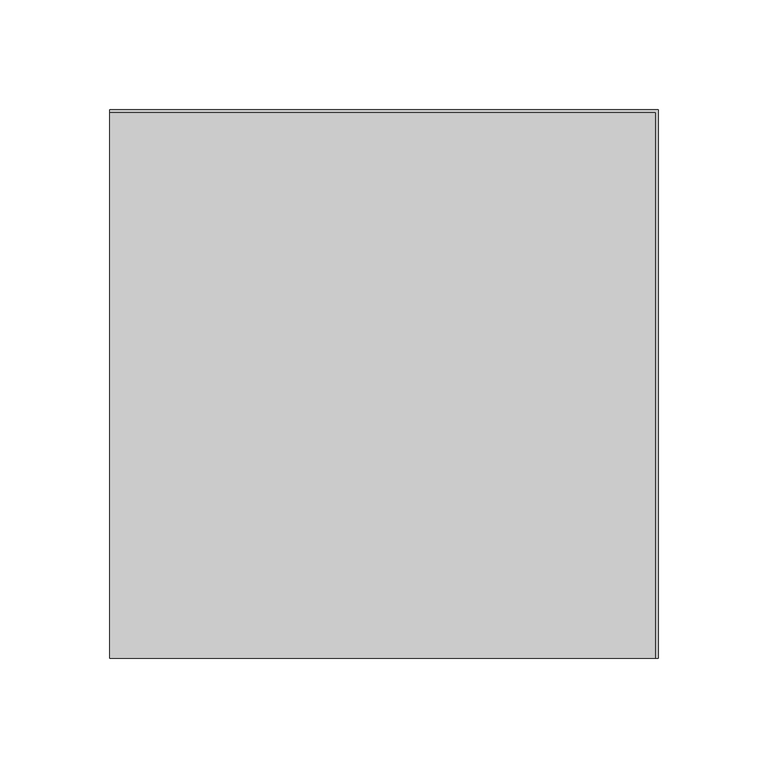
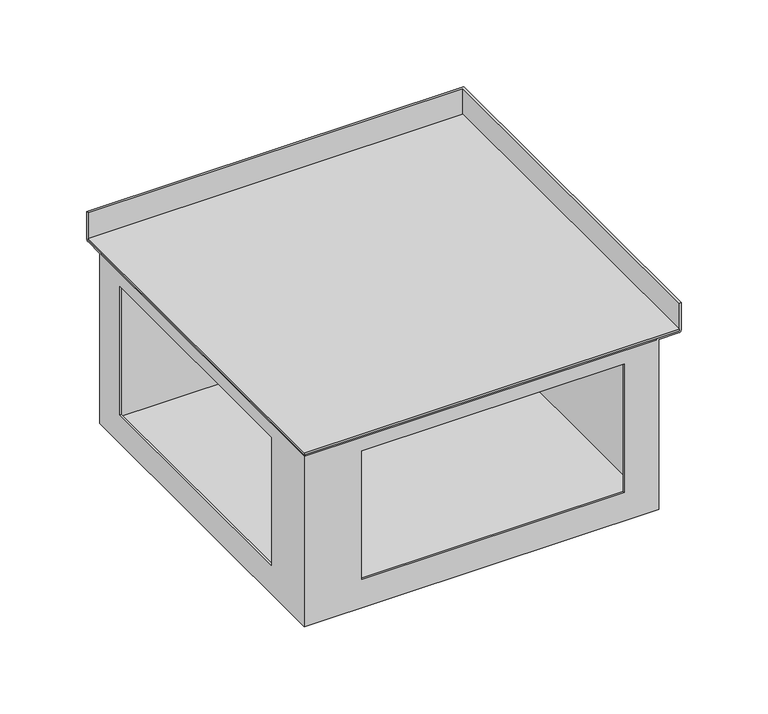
"""IFC4 building model written with IfcOpenShell, lengths in millimetres: proxy geometry, TECHNO_Угловой элемент_KVU : 250_140_90°."""

from ifc_helpers import new_model, si_unit, frame, origin, place, context, project, spatial, polyline, circle_curve, ellipse_curve, outline, extrude, source, transform, mapped, element, save
from ifc_brep_helpers import plane_surface, cylinder_surface, advanced_brep


def mechanical_equipment_c13f3576(model_context):
    return source(origin(), model_context, "Body", "SolidModel", [
        extrude(outline(polyline([(0.0, 123.8), (248.8, 123.8), (248.8, -125.0), (0.0, -125.0), (0.0, 123.8)])), frame((0.0, 0.0, -19.3), z_axis=(0.0, 0.0, 1.0), x_axis=(1.0, 0.0, 0.0)), (0.0, 0.0, 1.0), 1.2),
        advanced_brep(
        [(1.2, 109.0, -138.8), (1.2, -123.8, -138.8), (234.0, -123.8, -138.8), (234.0, 109.0, -138.8), (0.0, 110.2, -140.0), (235.2, 110.2, -140.0), (235.2, -125.0, -140.0), (0.0, -125.0, -140.0), (0.0, 110.2, -20.5), (0.0, -125.0, -20.5), (0.0, 109.0, -20.5), (0.0, 110.2, -19.3), (0.0, 123.8, -19.3), (0.0, 123.8, 0.0), (0.0, 125.0, 0.0), (0.0, 125.0, -19.3), (0.0, 123.8, -20.5), (0.0, -87.0, -30.0), (0.0, -87.0, -120.0), (0.0, 87.4, -120.0), (0.0, 87.4, -30.0), (235.2, -125.0, -20.5), (248.8, -125.0, -20.5), (250.0, -125.0, -19.3), (250.0, -125.0, 0.0), (248.8, -125.0, 0.0), (248.8, -125.0, -19.3), (235.2, -125.0, -19.3), (234.0, -125.0, -20.5), (38.0, -125.0, -120.0), (38.0, -125.0, -30.0), (212.4, -125.0, -30.0), (212.4, -125.0, -120.0), (235.2, 110.2, -20.5), (1.2, 110.2, -19.3), (1.2, -123.8, -19.3), (235.2, -123.8, -19.3), (248.8, 123.8, -19.3), (235.2, -109.0, -19.3), (16.0, -109.0, -19.3), (16.0, 110.2, -19.3), (235.2, 110.2, -19.3), (16.0, -109.0, -20.5), (16.0, 109.0, -20.5), (234.0, -109.0, -20.5), (234.0, -123.8, -20.5), (1.2, -123.8, -20.5), (1.2, 109.0, -20.5), (1.2, -87.0, -120.0), (1.2, -87.0, -30.0), (1.2, 87.4, -30.0), (1.2, 87.4, -120.0), (38.0, -123.8, -30.0), (38.0, -123.8, -120.0), (212.4, -123.8, -120.0), (212.4, -123.8, -30.0), (250.0, 125.0, -19.3), (250.0, 125.0, 0.0), (248.8, 123.8, 0.0), (248.8, 123.8, -20.5), (234.0, 109.0, -20.5)],
        [
            (0, 1),
            (1, 2),
            (2, 3),
            (3, 0),
            (4, 5),
            (5, 6),
            (6, 7),
            (7, 4),
            (8, 4),
            (7, 9),
            (9, 10),
            (10, 11, circle_curve(frame((0.0, 110.2, -20.5), z_axis=(-1.0, 0.0, 0.0), x_axis=(0.0, -1.0, 0.0)), 1.2)),
            (11, 12),
            (12, 13),
            (13, 14),
            (14, 15),
            (15, 16, circle_curve(frame((0.0, 123.8, -19.3), z_axis=(-1.0, 0.0, 0.0), x_axis=(0.0, -1.0, 0.0)), 1.2)),
            (16, 8),
            (17, 18),
            (18, 19),
            (19, 20),
            (20, 17),
            (6, 21),
            (21, 22),
            (22, 23, circle_curve(frame((248.8, -125.0, -19.3), z_axis=(0.0, -1.0, 0.0), x_axis=(-1.0, 0.0, 0.0)), 1.2)),
            (23, 24),
            (24, 25),
            (25, 26),
            (26, 27),
            (27, 28, circle_curve(frame((235.2, -125.0, -20.5), z_axis=(0.0, -1.0, 0.0), x_axis=(-1.0, 0.0, 0.0)), 1.2)),
            (28, 9),
            (29, 30),
            (30, 31),
            (31, 32),
            (32, 29),
            (8, 33),
            (33, 5),
            (33, 21),
            (34, 35),
            (35, 36),
            (36, 27),
            (26, 37),
            (37, 12),
            (11, 34),
            (38, 39),
            (39, 40),
            (40, 41),
            (41, 38),
            (39, 42),
            (42, 43),
            (43, 40, circle_curve(frame((16.0, 110.2, -20.5), z_axis=(-1.0, 0.0, 0.0), x_axis=(0.0, -1.0, 0.0)), 1.2)),
            (38, 44, circle_curve(frame((235.2, -109.0, -20.5), z_axis=(0.0, -1.0, 0.0), x_axis=(-1.0, 0.0, 0.0)), 1.2)),
            (44, 42),
            (44, 45),
            (45, 46),
            (46, 47),
            (47, 43),
            (46, 1),
            (0, 47),
            (48, 49),
            (49, 50),
            (50, 51),
            (51, 48),
            (45, 2),
            (52, 53),
            (53, 54),
            (54, 55),
            (55, 52),
            (34, 10, ellipse_curve(frame((1.2, 110.2, -20.5), z_axis=(0.7071067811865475, -0.7071067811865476, 0.0), x_axis=(0.7071067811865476, 0.7071067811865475, 0.0)), 1.6970563, 1.2)),
            (9, 35, ellipse_curve(frame((1.2, -123.8, -20.5), z_axis=(-0.7071067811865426, 0.7071067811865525, 0.0), x_axis=(0.7071067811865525, 0.7071067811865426, 0.0)), 1.6970563, 1.2)),
            (28, 36, ellipse_curve(frame((235.2, -123.8, -20.5), z_axis=(-0.707106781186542, 0.7071067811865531, 0.0), x_axis=(-0.7071067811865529, -0.707106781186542, 0.0)), 1.6970563, 1.2)),
            (23, 56),
            (56, 57),
            (57, 24),
            (57, 14),
            (13, 58),
            (58, 25),
            (58, 37),
            (16, 59),
            (59, 22),
            (59, 56, ellipse_curve(frame((248.8, 123.8, -19.3), z_axis=(0.7071067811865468, -0.7071067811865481, 0.0), x_axis=(-0.7071067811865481, -0.7071067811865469, 0.0)), 1.6970563, 1.2)),
            (56, 15),
            (41, 60, ellipse_curve(frame((235.2, 110.2, -20.5), z_axis=(0.7071067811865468, -0.7071067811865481, 0.0), x_axis=(-0.7071067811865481, -0.7071067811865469, 0.0)), 1.6970563, 1.2)),
            (60, 44),
            (60, 3),
            (43, 60),
            (48, 18),
            (17, 49),
            (51, 19),
            (50, 20),
            (52, 30),
            (29, 53),
            (55, 31),
            (54, 32),
        ],
        [
            plane_surface(frame((0.0, 109.0, -138.8), z_axis=(0.0, 0.0, 1.0), x_axis=(0.0, -1.0, 0.0))),
            plane_surface(frame((0.0, 109.0, -140.0), z_axis=(0.0, 0.0, -1.0), x_axis=(0.0, 1.0, 0.0))),
            plane_surface(frame((0.0, 109.0, -138.8), z_axis=(-1.0, 0.0, 0.0), x_axis=(0.0, 0.0, -1.0))),
            plane_surface(frame((0.0, -125.0, -138.8), z_axis=(0.0, -1.0, 0.0), x_axis=(0.0, 0.0, -1.0))),
            plane_surface(frame((0.0, 110.2, -140.0), z_axis=(0.0, 1.0, 0.0), x_axis=(0.0, 0.0, -1.0))),
            plane_surface(frame((235.2, -125.0, -140.0), z_axis=(1.0, 0.0, 0.0), x_axis=(0.0, 0.0, -1.0))),
            plane_surface(frame((1.2, 110.2, -19.3), z_axis=(0.0, 0.0, 1.0), x_axis=(0.0, -1.0, 0.0))),
            plane_surface(frame((16.0, 110.2, -19.3), z_axis=(1.0, 0.0, 0.0), x_axis=(0.0, -1.0, 0.0))),
            plane_surface(frame((16.0, -109.0, -19.3), z_axis=(0.0, 1.0, 0.0), x_axis=(1.0, 0.0, 0.0))),
            plane_surface(frame((16.0, 110.2, -20.5), z_axis=(0.0, 0.0, -1.0), x_axis=(0.0, -1.0, 0.0))),
            plane_surface(frame((1.2, 110.2, -20.5), z_axis=(1.0, 0.0, 0.0), x_axis=(0.0, -1.0, 0.0))),
            plane_surface(frame((1.2, -123.8, -20.5), z_axis=(0.0, 1.0, 0.0), x_axis=(1.0, 0.0, 0.0))),
            cylinder_surface(frame((1.2, 110.2, -20.5), z_axis=(0.0, 1.0, 0.0), x_axis=(-1.0, 0.0, 0.0)), 1.2),
            cylinder_surface(frame((0.0, -123.8, -20.5), z_axis=(-1.0, 0.0, 0.0), x_axis=(0.0, -1.0, 0.0)), 1.2),
            plane_surface(frame((250.0, -125.0, -19.3), z_axis=(1.0, 0.0, 0.0), x_axis=(0.0, 1.0, 0.0))),
            plane_surface(frame((250.0, -125.0, 0.0), z_axis=(0.0, 0.0, 1.0), x_axis=(0.0, 1.0, 0.0))),
            plane_surface(frame((248.8, -125.0, 0.0), z_axis=(-1.0, 0.0, 0.0), x_axis=(0.0, 1.0, 0.0))),
            plane_surface(frame((235.2, -125.0, -20.5), z_axis=(0.0, 0.0, -1.0), x_axis=(0.0, 1.0, 0.0))),
            cylinder_surface(frame((248.8, -125.0, -19.3), z_axis=(0.0, -1.0, 0.0), x_axis=(-1.0, 0.0, 0.0)), 1.2),
            plane_surface(frame((250.0, 125.0, -19.3), z_axis=(0.0, 1.0, 0.0), x_axis=(-1.0, 0.0, 0.0))),
            plane_surface(frame((248.8, 123.8, 0.0), z_axis=(0.0, -1.0, 0.0), x_axis=(-1.0, 0.0, 0.0))),
            cylinder_surface(frame((125.0, 123.8, -19.3), z_axis=(1.0, 0.0, 0.0), x_axis=(0.0, -1.0, 0.0)), 1.2),
            cylinder_surface(frame((235.2, -125.0, -20.5), z_axis=(0.0, -1.0, 0.0), x_axis=(-1.0, 0.0, 0.0)), 1.2),
            plane_surface(frame((234.0, -125.0, -20.5), z_axis=(-1.0, 0.0, 0.0), x_axis=(0.0, 1.0, 0.0))),
            cylinder_surface(frame((125.0, 110.2, -20.5), z_axis=(1.0, 0.0, 0.0), x_axis=(0.0, -1.0, 0.0)), 1.2),
            plane_surface(frame((234.0, 109.0, -20.5), z_axis=(0.0, -1.0, 0.0), x_axis=(-1.0, 0.0, 0.0))),
            plane_surface(frame((1.2, -87.0, -30.0), z_axis=(0.0, 1.0, 0.0), x_axis=(-1.0, 0.0, 0.0))),
            plane_surface(frame((1.2, -87.0, -120.0), z_axis=(0.0, 0.0, 1.0), x_axis=(-1.0, 0.0, 0.0))),
            plane_surface(frame((1.2, 87.4, -120.0), z_axis=(0.0, -1.0, 0.0), x_axis=(-1.0, 0.0, 0.0))),
            plane_surface(frame((1.2, 87.4, -30.0), z_axis=(0.0, 0.0, -1.0), x_axis=(-1.0, 0.0, 0.0))),
            plane_surface(frame((38.0, -123.8, -120.0), z_axis=(1.0, 0.0, 0.0), x_axis=(0.0, -1.0, 0.0))),
            plane_surface(frame((38.0, -123.8, -30.0), z_axis=(0.0, 0.0, -1.0), x_axis=(0.0, -1.0, 0.0))),
            plane_surface(frame((212.4, -123.8, -30.0), z_axis=(-1.0, 0.0, 0.0), x_axis=(0.0, -1.0, 0.0))),
            plane_surface(frame((212.4, -123.8, -120.0), z_axis=(0.0, 0.0, 1.0), x_axis=(0.0, -1.0, 0.0))),
        ],
        [
            (0, [[1, 2, 3, 4]]),
            (1, [[5, 6, 7, 8]]),
            (2, [[9, -8, 10, 11, 12, 13, 14, 15, 16, 17, 18], [19, 20, 21, 22]]),
            (3, [[23, 24, 25, 26, 27, 28, 29, 30, 31, -10, -7], [32, 33, 34, 35]]),
            (4, [[-9, 36, 37, -5]]),
            (5, [[-23, -6, -37, 38]]),
            (6, [[39, 40, 41, -29, 42, 43, -13, 44], [45, 46, 47, 48]]),
            (7, [[-46, 49, 50, 51]]),
            (8, [[-45, 52, 53, -49]]),
            (9, [[-50, -53, 54, 55, 56, 57]]),
            (10, [[58, -1, 59, -56], [60, 61, 62, 63]]),
            (11, [[-58, -55, 64, -2], [65, 66, 67, 68]]),
            (12, [[-39, 69, -11, 70]]),
            (13, [[-40, -70, -31, 71]]),
            (14, [[-26, 72, 73, 74]]),
            (15, [[-27, -74, 75, -15, 76, 77]]),
            (16, [[-28, -77, 78, -42]]),
            (17, [[-24, -38, -36, -18, 79, 80]]),
            (18, [[-25, -80, 81, -72]]),
            (19, [[-73, 82, -16, -75]]),
            (20, [[-76, -14, -43, -78]]),
            (21, [[-79, -17, -82, -81]]),
            (22, [[-30, -41, -71]]),
            (22, [[83, 84, -52, -48]]),
            (23, [[85, -3, -64, -54, -84]]),
            (24, [[-12, -69, -44]]),
            (24, [[-83, -47, -51, 86]]),
            (25, [[-85, -86, -57, -59, -4]]),
            (26, [[87, -19, 88, -60]]),
            (27, [[-87, -63, 89, -20]]),
            (28, [[-89, -62, 90, -21]]),
            (29, [[-88, -22, -90, -61]]),
            (30, [[91, -32, 92, -65]]),
            (31, [[-91, -68, 93, -33]]),
            (32, [[-93, -67, 94, -34]]),
            (33, [[-92, -35, -94, -66]]),
        ],
    ),
    ])


if __name__ == "__main__":
    model = new_model("IFC4")
    model_context = context("Model", 3, world=origin())
    ifc_project = project(units=[si_unit("LENGTHUNIT", "METRE", prefix="MILLI")], contexts=[model_context])
    site = spatial("IfcSite", under=ifc_project)
    building = spatial("IfcBuilding", under=site)
    placement = place(None, origin())
    mechanical_equipment_shape = mechanical_equipment_c13f3576(model_context)
    element("IfcBuildingElementProxy", 1, Name="TECHNO_Угловой элемент_KVU : 250_140_90°", ObjectType="TECHNO_Угловой элемент_KVU : 250_140_90°", at=placement, inside=building, context=model_context, shape_type="MappedRepresentation", body=[
        mapped(mechanical_equipment_shape, transform((0.0, 0.0, 0.0), x_axis=(1.0, 0.0, 0.0), y_axis=(0.0, 1.0, 0.0), z_axis=(0.0, 0.0, 1.0))),
    ])
    save(model, "model.ifc")
